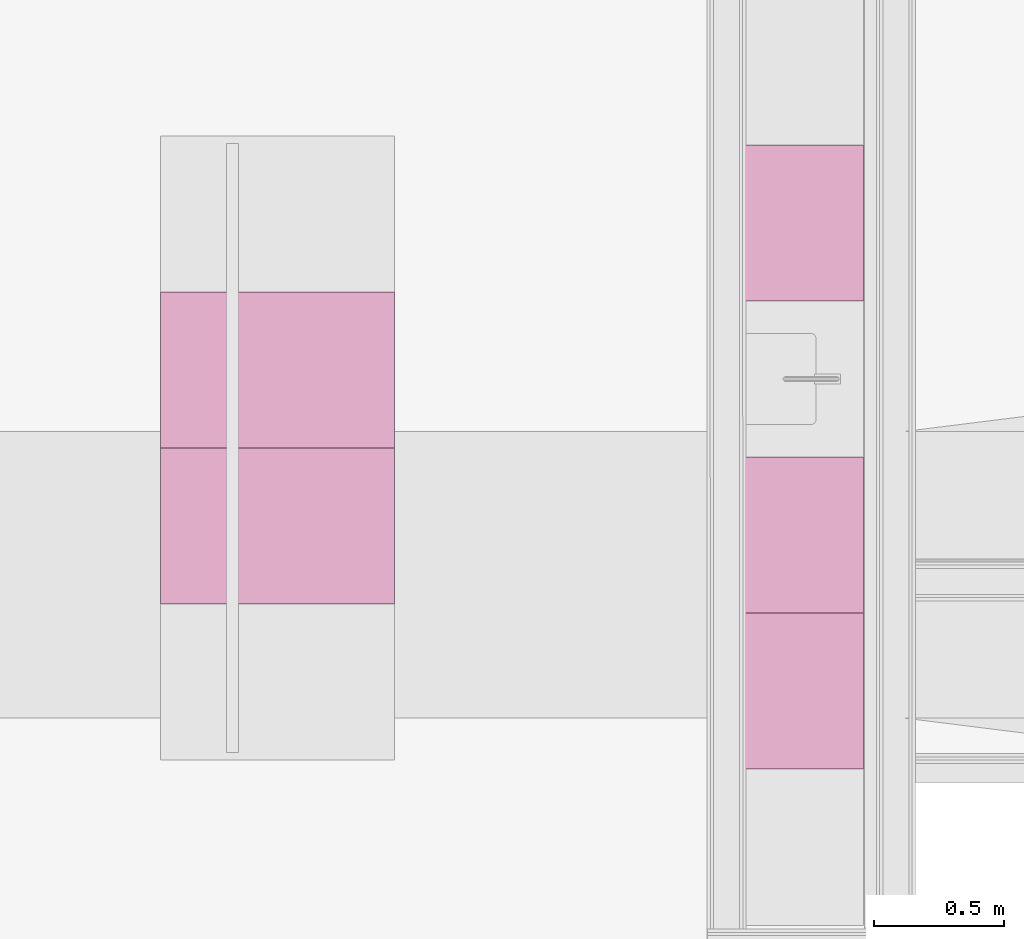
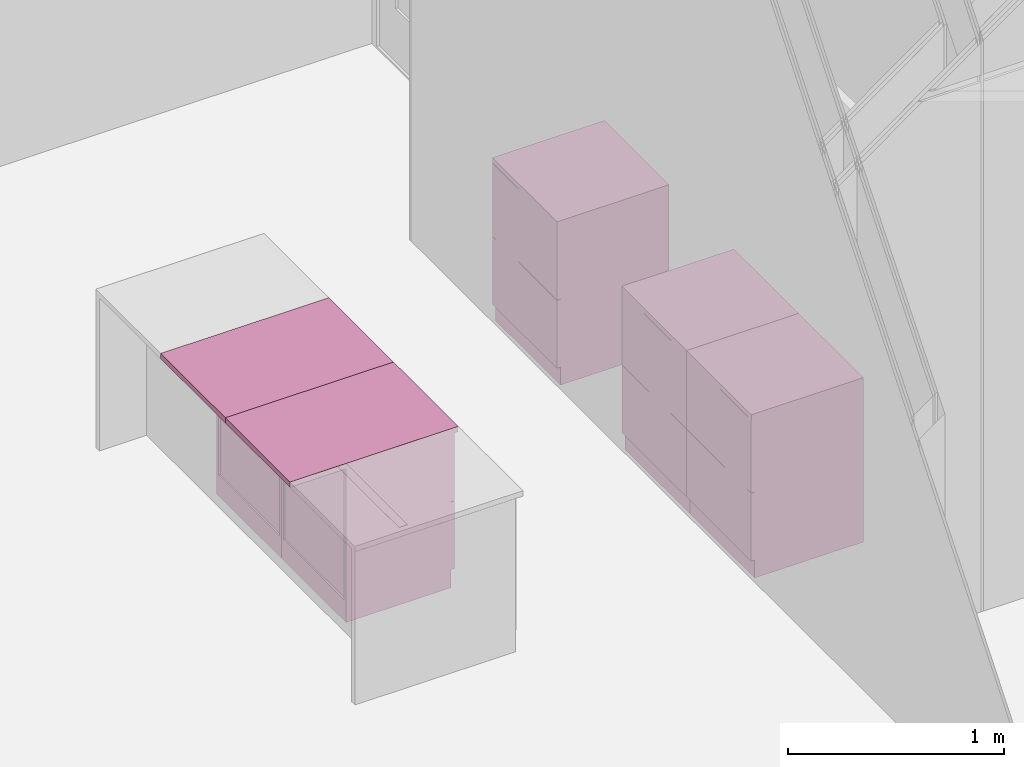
# One storey, part 89 of 94: 5 furnishings.
"""IFC2X3 building model written with IfcOpenShell, lengths in millimetres."""

from ifc_helpers import new_model, entity, si_unit, converted_unit, derived_unit, money_unit, direction, frame, origin_with_axes, place, context, subcontext, project, spatial, faceted_brep, source, transform, mapped, type_object, type_shapes, element, save


model = new_model("IFC2X3")

# Units and contexts
model_context = context("Model", 3, precision=0.01, world=origin_with_axes(), true_north=direction((0.0, 1.0)))
body_context = subcontext(model_context, "Body", "Model", "MODEL_VIEW")
ifc_project = project(units=[si_unit("LENGTHUNIT", "METRE", prefix="MILLI"), si_unit("AREAUNIT", "SQUARE_METRE"), si_unit("VOLUMEUNIT", "CUBIC_METRE"), converted_unit("PLANEANGLEUNIT", "DEGREE", entity("IfcPlaneAngleMeasure", 0.0174532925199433), si_unit("PLANEANGLEUNIT", "RADIAN"), dimensions=[0, 0, 0, 0, 0, 0, 0]), money_unit("EUR"), converted_unit("TIMEUNIT", "Year", entity("IfcTimeMeasure", 31557600.0), si_unit("TIMEUNIT", "SECOND"), dimensions=[0, 0, 1, 0, 0, 0, 0]), si_unit("MASSUNIT", "GRAM", prefix="KILO"), si_unit("THERMODYNAMICTEMPERATUREUNIT", "DEGREE_CELSIUS"), si_unit("LUMINOUSINTENSITYUNIT", "LUMEN"), si_unit("ENERGYUNIT", "JOULE", prefix="MEGA"), derived_unit("THERMALCONDUCTANCEUNIT", [(si_unit("POWERUNIT", "WATT"), 1), (si_unit("LENGTHUNIT", "METRE"), -1), (si_unit("THERMODYNAMICTEMPERATUREUNIT", "KELVIN"), -1)]), derived_unit("SPECIFICHEATCAPACITYUNIT", [(si_unit("ENERGYUNIT", "JOULE"), 1), (si_unit("MASSUNIT", "GRAM", prefix="KILO"), -1), (si_unit("THERMODYNAMICTEMPERATUREUNIT", "KELVIN"), -1)]), derived_unit("MASSDENSITYUNIT", [(si_unit("MASSUNIT", "GRAM", prefix="KILO"), 1), (si_unit("VOLUMEUNIT", "CUBIC_METRE"), -1)])], contexts=[model_context])

# Site, building, storey
site_placement = place(None, origin_with_axes())
site = spatial("IfcSite", under=ifc_project, at=site_placement, Name="<site naam>", CompositionType="ELEMENT")
building_placement = place(site_placement, origin_with_axes())
building = spatial("IfcBuilding", under=site, at=building_placement, Name="<Naam gebouw>", CompositionType="ELEMENT")
storey_placement = place(building_placement, frame((0.0, 0.0, 4250.0), z_axis=(0.0, 0.0, 1.0), x_axis=(1.0, 0.0, 0.0)))
storey = spatial("IfcBuildingStorey", under=building, at=storey_placement, Name="01 1e verdieping", CompositionType="ELEMENT", Elevation=4250.0)

# Furnishings
furnishing_element_type = type_object("IfcFurnishingElementType", Name="Onderkast recht 27")
shared_shape_1 = source(origin_with_axes(), body_context, "Body", "Brep", [
    faceted_brep([(0.0, -900.0000000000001, 870.0), (600.0, -900.0000000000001, 870.0), (600.0, -900.0000000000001, 900.0), (0.0, -900.0000000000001, 900.0), (0.0, 0.0, 870.0), (600.0, 0.0, 870.0), (600.0, 0.0, 900.0), (0.0, 0.0, 900.0)], [[[0, 1, 2, 3]], [[0, 4, 5, 1]], [[1, 5, 6, 2]], [[3, 2, 6, 7]], [[4, 0, 3, 7]], [[5, 4, 7, 6]]]),
    faceted_brep([(18.0, -862.0000000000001, 476.0), (582.0, -862.0000000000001, 476.0), (582.0, -862.0000000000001, 494.0), (18.0, -862.0000000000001, 494.0), (18.0, -318.0, 476.0), (582.0, -318.0, 476.0), (582.0, -318.0, 494.0), (18.0, -318.0, 494.0)], [[[0, 1, 2, 3]], [[0, 4, 5, 1]], [[1, 5, 6, 2]], [[3, 2, 6, 7]], [[4, 0, 3, 7]], [[5, 4, 7, 6]]]),
    faceted_brep([(1.0, -862.0000000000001, 101.0), (599.0, -862.0000000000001, 101.0), (599.0, -880.0000000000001, 101.0), (1.0, -880.0000000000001, 101.0), (1.0, -862.0000000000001, 484.0), (599.0, -862.0000000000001, 484.0), (599.0, -880.0000000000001, 484.0), (1.0, -880.0000000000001, 484.0)], [[[0, 1, 2, 3]], [[0, 4, 5, 1]], [[1, 5, 6, 2]], [[3, 2, 6, 7]], [[4, 0, 3, 7]], [[5, 4, 7, 6]]]),
    faceted_brep([(1.0, -862.0000000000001, 486.0), (599.0, -862.0000000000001, 486.0), (599.0, -880.0000000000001, 486.0), (1.0, -880.0000000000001, 486.0), (1.0, -862.0000000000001, 869.0), (599.0, -862.0000000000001, 869.0), (599.0, -880.0000000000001, 869.0), (1.0, -880.0000000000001, 869.0)], [[[0, 1, 2, 3]], [[0, 4, 5, 1]], [[1, 5, 6, 2]], [[3, 2, 6, 7]], [[4, 0, 3, 7]], [[5, 4, 7, 6]]]),
    faceted_brep([(18.0, -862.0000000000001, 100.0), (582.0, -862.0000000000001, 100.0), (582.0, -862.0000000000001, 118.0), (18.0, -862.0000000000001, 118.0), (18.0, -300.0, 100.0), (582.0, -300.0, 100.0), (582.0, -300.0, 118.0), (18.0, -300.0, 118.0)], [[[0, 1, 2, 3]], [[0, 4, 5, 1]], [[1, 5, 6, 2]], [[3, 2, 6, 7]], [[4, 0, 3, 7]], [[5, 4, 7, 6]]]),
    faceted_brep([(18.0, -862.0000000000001, 852.0), (18.0, -802.0, 852.0), (582.0, -802.0, 852.0), (582.0, -862.0000000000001, 852.0), (18.0, -862.0000000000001, 870.0), (18.0, -802.0, 870.0), (582.0, -802.0, 870.0), (582.0, -862.0000000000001, 870.0)], [[[0, 1, 2, 3]], [[0, 4, 5, 1]], [[1, 5, 6, 2]], [[3, 2, 6, 7]], [[4, 0, 3, 7]], [[5, 4, 7, 6]]]),
    faceted_brep([(582.0, -300.0, 852.0), (582.0, -360.0, 852.0), (18.0, -360.0, 852.0), (18.0, -300.0, 852.0), (582.0, -300.0, 870.0), (582.0, -360.0, 870.0), (18.0, -360.0, 870.0), (18.0, -300.0, 870.0)], [[[0, 1, 2, 3]], [[0, 4, 5, 1]], [[1, 5, 6, 2]], [[3, 2, 6, 7]], [[4, 0, 3, 7]], [[5, 4, 7, 6]]]),
    faceted_brep([(0.0, -300.0, 100.0), (0.0, -862.0000000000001, 100.0), (0.0, -862.0000000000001, 870.0), (0.0, -300.0, 870.0), (18.0, -300.0, 100.0), (18.0, -862.0000000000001, 100.0), (18.0, -862.0000000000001, 870.0), (18.0, -300.0, 870.0)], [[[0, 1, 2, 3]], [[0, 4, 5, 1]], [[1, 5, 6, 2]], [[3, 2, 6, 7]], [[4, 0, 3, 7]], [[5, 4, 7, 6]]]),
    faceted_brep([(600.0, -862.0000000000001, 100.0), (600.0, -300.0000000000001, 100.0), (600.0, -300.0000000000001, 870.0), (600.0, -862.0000000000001, 870.0), (582.0, -862.0000000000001, 100.0), (582.0, -300.0000000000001, 100.0), (582.0, -300.0000000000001, 870.0), (582.0, -862.0000000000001, 870.0)], [[[0, 1, 2, 3]], [[0, 4, 5, 1]], [[1, 5, 6, 2]], [[3, 2, 6, 7]], [[4, 0, 3, 7]], [[5, 4, 7, 6]]]),
    faceted_brep([(582.0, -309.0, 118.0), (18.00000000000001, -309.0, 118.0), (18.00000000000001, -309.0, 852.0), (582.0, -309.0, 852.0), (582.0, -318.0, 118.0), (18.00000000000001, -318.0, 118.0), (18.00000000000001, -318.0, 852.0), (582.0, -318.0, 852.0)], [[[0, 1, 2, 3]], [[0, 4, 5, 1]], [[1, 5, 6, 2]], [[3, 2, 6, 7]], [[4, 0, 3, 7]], [[5, 4, 7, 6]]]),
    faceted_brep([(0.0, -862.0000000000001, 0.0), (600.0, -862.0000000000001, 0.0), (600.0, -862.0000000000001, 100.0), (0.0, -862.0000000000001, 100.0), (0.0, -300.0, 0.0), (600.0, -300.0, 0.0), (600.0, -300.0, 100.0), (0.0, -300.0, 100.0)], [[[0, 1, 2, 3]], [[0, 4, 5, 1]], [[1, 5, 6, 2]], [[3, 2, 6, 7]], [[4, 0, 3, 7]], [[5, 4, 7, 6]]]),
])
for number, where, z_axis, x_axis, name in (
    (1, (-2851.731711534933, 15887.49996934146, 0.3698651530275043), (0.0, 0.0, 1.0), (0.0, 1.0, 0.0), "73_Brandslanghaspelkast_Lege"),
    (2, (-2851.731711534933, 16487.49996934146, 0.3698651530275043), (0.0, 0.0, 1.0), (0.0, 1.0, 0.0), "73_Brandslanghaspelkast_Lege"),
):
    element("IfcFurnishingElement", number, at=place(storey_placement, frame(where, z_axis=z_axis, x_axis=x_axis)), inside=storey, type_object=furnishing_element_type, Name=name, context=body_context, shape_type="MappedRepresentation", body=[
        mapped(shared_shape_1, transform((0.0, 0.0, 0.0))),
    ])
shared_shape_2 = source(origin_with_axes(), body_context, "Body", "Brep", [
    faceted_brep([(0.0, -600.0, 900.0), (600.0, -600.0, 900.0), (600.0, -600.0, 930.0), (0.0, -600.0, 930.0), (0.0, 0.0, 900.0), (600.0, 0.0, 900.0), (600.0, 0.0, 930.0), (0.0, 0.0, 930.0)], [[[0, 1, 2, 3]], [[0, 4, 5, 1]], [[1, 5, 6, 2]], [[3, 2, 6, 7]], [[4, 0, 3, 7]], [[5, 4, 7, 6]]]),
    faceted_brep([(577.0, -582.0, 123.0), (23.0, -582.0, 123.0), (23.0, -18.00000000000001, 123.0), (577.0, -18.00000000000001, 123.0), (577.0, -582.0, 133.0), (23.0, -582.0, 133.0), (23.0, -18.00000000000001, 133.0), (577.0, -18.00000000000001, 133.0)], [[[0, 1, 2, 3]], [[1, 0, 4, 5]], [[2, 1, 5, 6]], [[3, 2, 6, 7]], [[0, 3, 7, 4]], [[5, 4, 7, 6]]]),
    faceted_brep([(43.0, -582.0, 133.0), (23.0, -582.0, 133.0), (23.0, -18.00000000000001, 133.0), (43.0, -18.00000000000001, 133.0), (43.0, -582.0, 480.0), (23.0, -582.0, 480.0), (23.0, -18.00000000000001, 480.0), (43.0, -18.00000000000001, 480.0)], [[[0, 1, 2, 3]], [[1, 0, 4, 5]], [[2, 1, 5, 6]], [[3, 2, 6, 7]], [[0, 3, 7, 4]], [[5, 4, 7, 6]]]),
    faceted_brep([(577.0, -582.0, 133.0), (556.9999999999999, -582.0, 133.0), (556.9999999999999, -18.00000000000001, 133.0), (577.0, -18.00000000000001, 133.0), (577.0, -582.0, 480.0), (556.9999999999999, -582.0, 480.0), (556.9999999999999, -18.00000000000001, 480.0), (577.0, -18.00000000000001, 480.0)], [[[0, 1, 2, 3]], [[1, 0, 4, 5]], [[2, 1, 5, 6]], [[3, 2, 6, 7]], [[0, 3, 7, 4]], [[5, 4, 7, 6]]]),
    faceted_brep([(556.9999999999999, -33.00000000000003, 133.0), (43.0, -33.00000000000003, 133.0), (43.0, -23.00000000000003, 133.0), (556.9999999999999, -23.00000000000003, 133.0), (556.9999999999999, -33.00000000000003, 480.0), (43.0, -33.00000000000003, 480.0), (43.0, -23.00000000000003, 480.0), (556.9999999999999, -23.00000000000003, 480.0)], [[[0, 1, 2, 3]], [[1, 0, 4, 5]], [[2, 1, 5, 6]], [[3, 2, 6, 7]], [[0, 3, 7, 4]], [[5, 4, 7, 6]]]),
    faceted_brep([(577.0, -582.0, 490.0), (23.0, -582.0, 490.0), (23.0, -18.00000000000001, 490.0), (577.0, -18.00000000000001, 490.0), (577.0, -582.0, 500.0), (23.0, -582.0, 500.0), (23.0, -18.00000000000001, 500.0), (577.0, -18.00000000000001, 500.0)], [[[0, 1, 2, 3]], [[1, 0, 4, 5]], [[2, 1, 5, 6]], [[3, 2, 6, 7]], [[0, 3, 7, 4]], [[5, 4, 7, 6]]]),
    faceted_brep([(43.0, -582.0, 500.0), (23.0, -582.0, 500.0), (23.0, -18.00000000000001, 500.0), (43.0, -18.00000000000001, 500.0), (43.0, -582.0, 877.0), (23.0, -582.0, 877.0), (23.0, -18.00000000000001, 877.0), (43.0, -18.00000000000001, 877.0)], [[[0, 1, 2, 3]], [[1, 0, 4, 5]], [[2, 1, 5, 6]], [[3, 2, 6, 7]], [[0, 3, 7, 4]], [[5, 4, 7, 6]]]),
    faceted_brep([(577.0, -582.0, 500.0), (556.9999999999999, -582.0, 500.0), (556.9999999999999, -18.00000000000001, 500.0), (577.0, -18.00000000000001, 500.0), (577.0, -582.0, 877.0), (556.9999999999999, -582.0, 877.0), (556.9999999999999, -18.00000000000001, 877.0), (577.0, -18.00000000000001, 877.0)], [[[0, 1, 2, 3]], [[1, 0, 4, 5]], [[2, 1, 5, 6]], [[3, 2, 6, 7]], [[0, 3, 7, 4]], [[5, 4, 7, 6]]]),
    faceted_brep([(556.9999999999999, -33.00000000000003, 500.0), (43.0, -33.00000000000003, 500.0), (43.0, -23.00000000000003, 500.0), (556.9999999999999, -23.00000000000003, 500.0), (556.9999999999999, -33.00000000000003, 877.0), (43.0, -33.00000000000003, 877.0), (43.0, -23.00000000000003, 877.0), (556.9999999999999, -23.00000000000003, 877.0)], [[[0, 1, 2, 3]], [[1, 0, 4, 5]], [[2, 1, 5, 6]], [[3, 2, 6, 7]], [[0, 3, 7, 4]], [[5, 4, 7, 6]]]),
    faceted_brep([(1.0, -582.0, 101.0), (599.0, -582.0, 101.0), (599.0, -600.0, 101.0), (1.0, -600.0, 101.0), (1.0, -582.0, 484.0), (599.0, -582.0, 484.0), (599.0, -600.0, 484.0), (1.0, -600.0, 484.0)], [[[0, 1, 2, 3]], [[0, 4, 5, 1]], [[1, 5, 6, 2]], [[3, 2, 6, 7]], [[4, 0, 3, 7]], [[5, 4, 7, 6]]]),
    faceted_brep([(1.0, -582.0, 486.0), (599.0, -582.0, 486.0), (599.0, -600.0, 486.0), (1.0, -600.0, 486.0), (1.0, -582.0, 899.0), (599.0, -582.0, 899.0), (599.0, -600.0, 899.0), (1.0, -600.0, 899.0)], [[[0, 1, 2, 3]], [[0, 4, 5, 1]], [[1, 5, 6, 2]], [[3, 2, 6, 7]], [[4, 0, 3, 7]], [[5, 4, 7, 6]]]),
    faceted_brep([(18.0, -582.0, 100.0), (582.0, -582.0, 100.0), (582.0, -582.0, 118.0), (18.0, -582.0, 118.0), (18.0, 0.0, 100.0), (582.0, 0.0, 100.0), (582.0, 0.0, 118.0), (18.0, 0.0, 118.0)], [[[0, 1, 2, 3]], [[0, 4, 5, 1]], [[1, 5, 6, 2]], [[3, 2, 6, 7]], [[4, 0, 3, 7]], [[5, 4, 7, 6]]]),
    faceted_brep([(18.0, -582.0, 882.0), (18.0, -522.0, 882.0), (582.0, -522.0, 882.0), (582.0, -582.0, 882.0), (18.0, -582.0, 900.0), (18.0, -522.0, 900.0), (582.0, -522.0, 900.0), (582.0, -582.0, 900.0)], [[[0, 1, 2, 3]], [[0, 4, 5, 1]], [[1, 5, 6, 2]], [[3, 2, 6, 7]], [[4, 0, 3, 7]], [[5, 4, 7, 6]]]),
    faceted_brep([(582.0, 0.0, 882.0), (582.0, -60.0, 882.0), (18.0, -60.0, 882.0), (18.0, 0.0, 882.0), (582.0, 0.0, 900.0), (582.0, -60.0, 900.0), (18.0, -60.0, 900.0), (18.0, 0.0, 900.0)], [[[0, 1, 2, 3]], [[0, 4, 5, 1]], [[1, 5, 6, 2]], [[3, 2, 6, 7]], [[4, 0, 3, 7]], [[5, 4, 7, 6]]]),
    faceted_brep([(0.0, 0.0, 100.0), (0.0, -582.0, 100.0), (0.0, -582.0, 900.0), (0.0, 0.0, 900.0), (18.0, 0.0, 100.0), (18.0, -582.0, 100.0), (18.0, -582.0, 900.0), (18.0, 0.0, 900.0)], [[[0, 1, 2, 3]], [[0, 4, 5, 1]], [[1, 5, 6, 2]], [[3, 2, 6, 7]], [[4, 0, 3, 7]], [[5, 4, 7, 6]]]),
    faceted_brep([(600.0, -582.0, 100.0), (600.0, 0.0, 100.0), (600.0, 0.0, 900.0), (600.0, -582.0, 900.0), (582.0, -582.0, 100.0), (582.0, 0.0, 100.0), (582.0, 0.0, 900.0), (582.0, -582.0, 900.0)], [[[0, 1, 2, 3]], [[0, 4, 5, 1]], [[1, 5, 6, 2]], [[3, 2, 6, 7]], [[4, 0, 3, 7]], [[5, 4, 7, 6]]]),
    faceted_brep([(582.0, -9.0, 118.0), (18.00000000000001, -9.0, 118.0), (18.00000000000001, -9.0, 882.0), (582.0, -9.0, 882.0), (582.0, -18.0, 118.0), (18.00000000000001, -18.0, 118.0), (18.00000000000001, -18.0, 882.0), (582.0, -18.0, 882.0)], [[[0, 1, 2, 3]], [[0, 4, 5, 1]], [[1, 5, 6, 2]], [[3, 2, 6, 7]], [[4, 0, 3, 7]], [[5, 4, 7, 6]]]),
    faceted_brep([(0.0, -582.0, 0.0), (600.0, -582.0, 0.0), (600.0, -582.0, 100.0), (0.0, -582.0, 100.0), (0.0, 0.0, 0.0), (600.0, 0.0, 0.0), (600.0, 0.0, 100.0), (0.0, 0.0, 100.0)], [[[0, 1, 2, 3]], [[0, 4, 5, 1]], [[1, 5, 6, 2]], [[3, 2, 6, 7]], [[4, 0, 3, 7]], [[5, 4, 7, 6]]]),
])
type_shapes(furnishing_element_type, [shared_shape_1, shared_shape_2])
for number, where, z_axis, x_axis, name in (
    (3, (-149.9999999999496, 17652.49996934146, 0.0), (0.0, 0.0, 1.0), (0.0, -1.0, 0.0), "73_Brandslanghaspelkast_Lege"),
    (4, (-149.9999999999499, 15852.49996934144, 0.0), (0.0, 0.0, 1.0), (0.0, -1.0, 0.0), "73_Brandslanghaspelkast_Lege"),
    (5, (-149.9999999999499, 16452.49996934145, 0.0), (0.0, 0.0, 1.0), (0.0, -1.0, 0.0), "73_Brandslanghaspelkast_Lege"),
):
    element("IfcFurnishingElement", number, at=place(storey_placement, frame(where, z_axis=z_axis, x_axis=x_axis)), inside=storey, type_object=furnishing_element_type, Name=name, context=body_context, shape_type="MappedRepresentation", body=[
        mapped(shared_shape_2, transform((0.0, 0.0, 0.0))),
    ])

save(model, "model.ifc")
